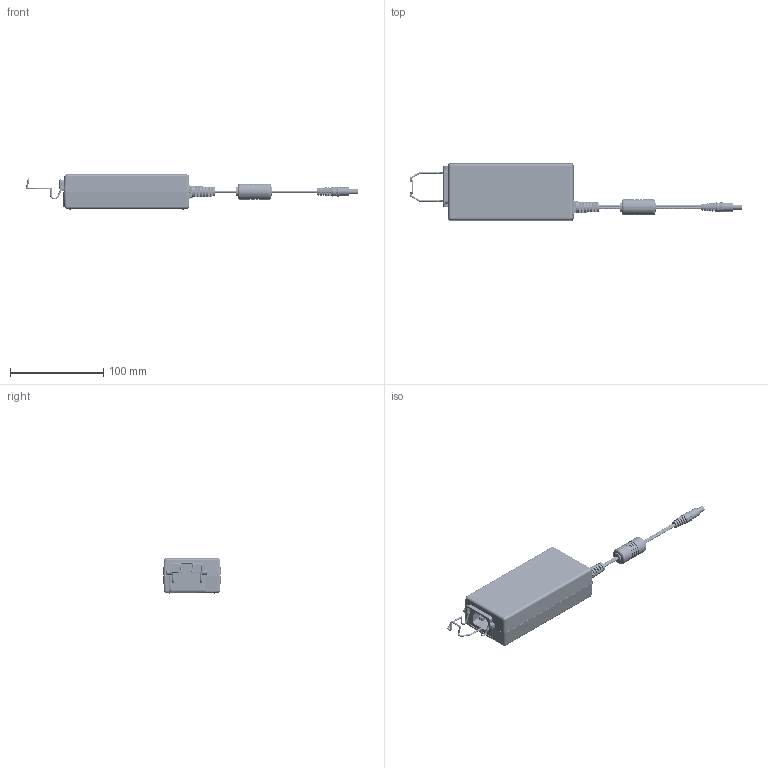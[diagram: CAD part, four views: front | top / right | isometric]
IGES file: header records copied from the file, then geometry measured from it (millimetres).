
Start section: SolidWorks IGES file using analytic representation for surfaces
Global section: file name: C:\Users\mraja\OneDrive - XP Power Plc\Works\Projects\ALM85\Solidworks\FA_ALM85_C.IGS; native system: SolidWorks 2016; preprocessor: SolidWorks 2016; author: mraja; date: 161003.110858; units: millimetre
Bounding box: 355.69 x 62 x 38 mm (x, y, z)
Surface area: 256960.8 mm2 (no closed solid volume)
Topology: 0 solids, 0 shells, 5769 faces, 51116 edges, 51057 vertices
Faces by surface type: bspline 4563, revolution 1206
